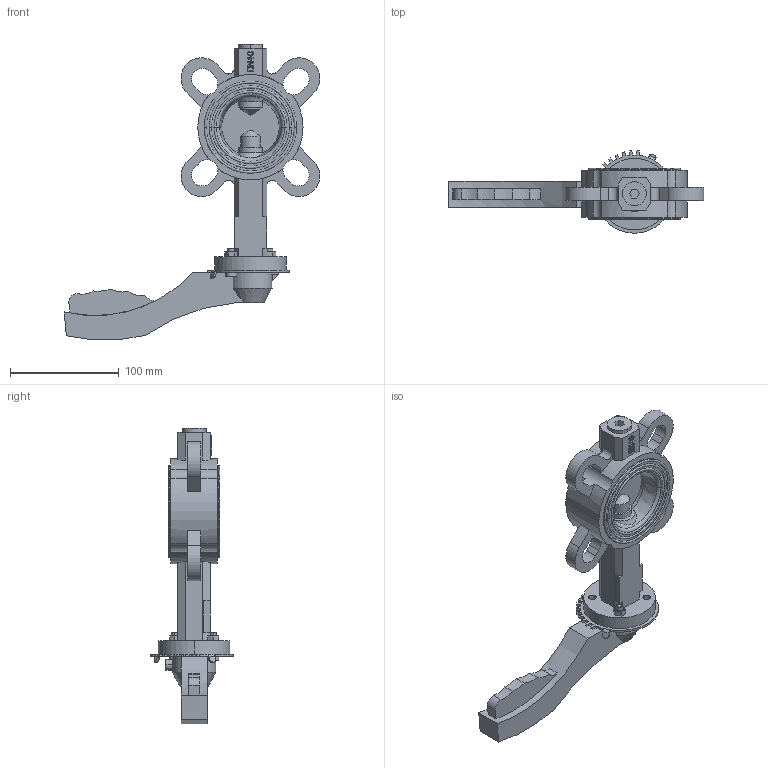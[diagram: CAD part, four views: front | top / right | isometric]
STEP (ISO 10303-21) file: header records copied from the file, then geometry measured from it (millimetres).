
FILE_DESCRIPTION((''),'2;1');
FILE_NAME('SB_RUCHKA_ASM','2023-12-23T',('DIMA'),(''),'PRO/ENGINEER BY PARAMETRIC TECHNOLOGY CORPORATION, 2008020','PRO/ENGINEER BY PARAMETRIC TECHNOLOGY CORPORATION, 2008020','');
FILE_SCHEMA(('CONFIG_CONTROL_DESIGN'));
Length unit declared in the file: millimetre
Products named in the file (19): KORPUS; REZ; DISK; SHTIR_1; ZAGLUSHKA; O-RING; SHTIR_2; SHAIBA_RAZREZ; SHAIBA; KOLCO_22_GOST13943; VTULKA; MANZET_REZ; SB_ASM; PLASTINA; RUCHKA; V-11738-M6X20; G-5915-M6; V-11738-M6X16; SB_RUCHKA_ASM
Assembly tree (26 placements, depth 3):
  SB_RUCHKA_ASM
    SB_ASM
      KORPUS
      REZ
      DISK
      SHTIR_1
      ZAGLUSHKA
      O-RING  x2
      SHTIR_2
      SHAIBA_RAZREZ
      SHAIBA  x2
      KOLCO_22_GOST13943
      VTULKA  x5
      MANZET_REZ
    PLASTINA
    RUCHKA
    V-11738-M6X20  x2
    G-5915-M6  x2
    V-11738-M6X16
Bounding box: 235.2 x 75.93 x 272.36 mm (x, y, z)
Volume: 544743.2 mm3; surface area: 175464.3 mm2
Topology: 25 solids, 32 shells, 675 faces, 1739 edges, 1142 vertices
Faces by surface type: plane 372, cylinder 216, cone 55, torus 28, bspline 4
Entity records: 20024 total; most frequent: CARTESIAN_POINT 4077, DIRECTION 3405, ORIENTED_EDGE 3148, EDGE_CURVE 1587, AXIS2_PLACEMENT_3D 1217, VERTEX_POINT 1044, VECTOR 971, LINE 971
